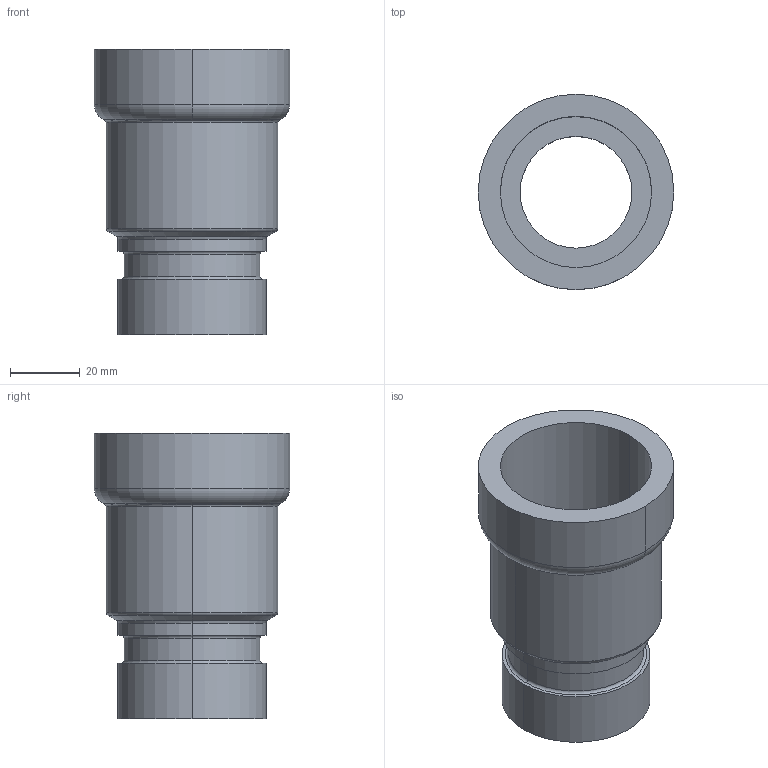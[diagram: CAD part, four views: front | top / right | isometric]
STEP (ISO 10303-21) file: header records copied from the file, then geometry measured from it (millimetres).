
FILE_DESCRIPTION(('Creo Elements/Direct Modeling STEP Export'),'2;1');
FILE_NAME('C9448_1-1-4.stp','2020-07-20T16:13:42',(''),(''),'PTC Creo Elements/Direct Modeling STEP processor for AP214 (Solid Model)','PTC Creo Elements/Direct Modeling 19.0C 15-Aug-2015 (C) Parametric Technology GmbH','');
FILE_SCHEMA(('AUTOMOTIVE_DESIGN { 1 0 10303 214 1 1 1 1 }'));
Length unit declared in the file: millimetre
Products named in the file (2): C9448_1-1-4
Assembly tree (1 placements, depth 2):
  C9448_1-1-4
    C9448_1-1-4
Bounding box: 56 x 56 x 81.79 mm (x, y, z)
Volume: 51578.3 mm3; surface area: 25402.4 mm2
Topology: 1 solids, 1 shells, 35 faces, 72 edges, 42 vertices
Faces by surface type: cylinder 14, torus 12, plane 5, cone 4
Entity records: 875 total; most frequent: DIRECTION 156, ORIENTED_EDGE 144, CARTESIAN_POINT 129, EDGE_CURVE 72, AXIS2_PLACEMENT_3D 69, VERTEX_POINT 42, EDGE_LOOP 40, FACE_OUTER_BOUND 35
